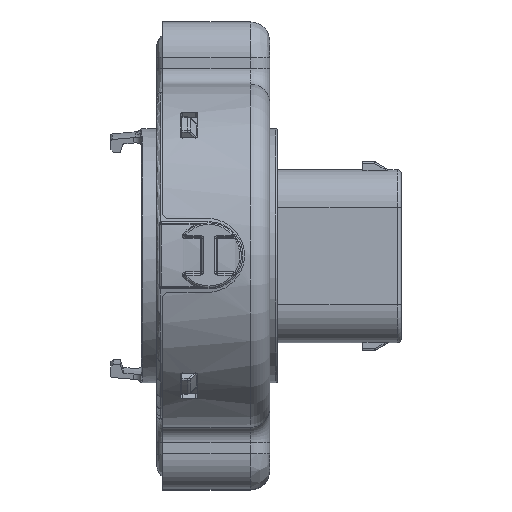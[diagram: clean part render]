
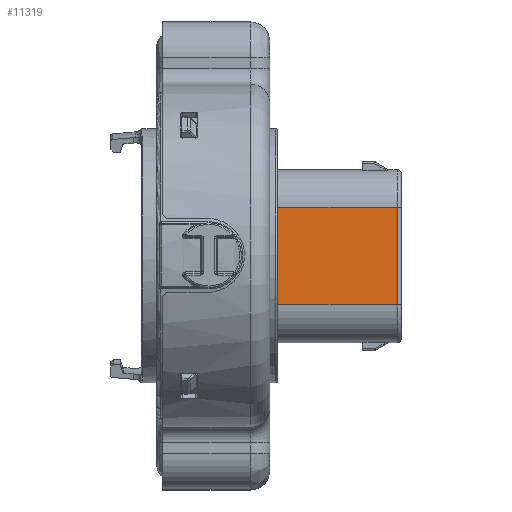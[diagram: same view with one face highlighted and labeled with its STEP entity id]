
A CAD part, top view. The second image highlights one B-rep face of the part: STEP entity #11319.
In plain terms, the highlighted planar face has unit normal (0, 0, 1).
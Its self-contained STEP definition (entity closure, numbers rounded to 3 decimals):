
#7843=PLANE('',#25214);
#8176=LINE('',#31648,#9420);
#8690=LINE('',#35610,#9963);
#8692=LINE('',#35639,#9965);
#8693=LINE('',#35641,#9966);
#9420=VECTOR('',#26634,1.);
#9963=VECTOR('',#28151,1.);
#9965=VECTOR('',#28161,1.);
#9966=VECTOR('',#28162,1.);
#11319=ADVANCED_FACE('',(#12331),#7843,.T.);
#12331=FACE_OUTER_BOUND('',#13360,.T.);
#13360=EDGE_LOOP('',(#16769,#16770,#16771,#16772));
#16769=ORIENTED_EDGE('',*,*,#22689,.F.);
#16770=ORIENTED_EDGE('',*,*,#21787,.T.);
#16771=ORIENTED_EDGE('',*,*,#22695,.T.);
#16772=ORIENTED_EDGE('',*,*,#22696,.T.);
#20176=VERTEX_POINT('',#31647);
#20177=VERTEX_POINT('',#31649);
#20762=VERTEX_POINT('',#35611);
#20766=VERTEX_POINT('',#35640);
#21787=EDGE_CURVE('',#20177,#20176,#8176,.T.);
#22689=EDGE_CURVE('',#20177,#20762,#8690,.T.);
#22695=EDGE_CURVE('',#20176,#20766,#8692,.T.);
#22696=EDGE_CURVE('',#20766,#20762,#8693,.T.);
#25214=AXIS2_PLACEMENT_3D('',#35642,#28163,#28164);
#26634=DIRECTION('',(0.,-1.,0.));
#28151=DIRECTION('',(1.,0.,0.));
#28161=DIRECTION('',(1.,0.,0.));
#28162=DIRECTION('',(0.,1.,0.));
#28163=DIRECTION('',(0.,0.,1.));
#28164=DIRECTION('',(0.,-1.,0.));
#31647=CARTESIAN_POINT('',(14.5,-6.25,6.1));
#31648=CARTESIAN_POINT('',(14.5,24.,6.1));
#31649=CARTESIAN_POINT('',(14.5,6.25,6.1));
#35610=CARTESIAN_POINT('',(13.35,6.25,6.1));
#35611=CARTESIAN_POINT('',(30.85,6.25,6.1));
#35639=CARTESIAN_POINT('',(13.35,-6.25,6.1));
#35640=CARTESIAN_POINT('',(30.85,-6.25,6.1));
#35641=CARTESIAN_POINT('',(30.85,6.25,6.1));
#35642=CARTESIAN_POINT('',(13.35,6.25,6.1));
